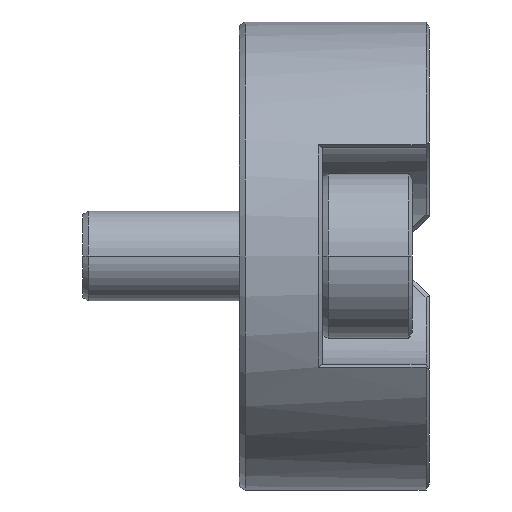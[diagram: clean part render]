
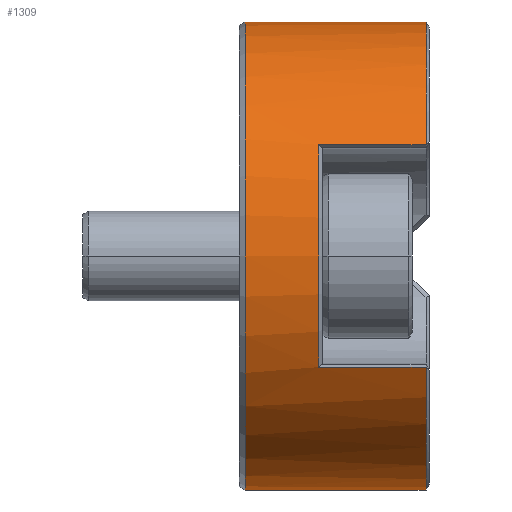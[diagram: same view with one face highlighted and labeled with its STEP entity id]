
A CAD part, left-side view. The second image highlights one B-rep face of the part: STEP entity #1309.
In plain terms, the highlighted cylindrical face has radius 7.811 mm (diameter 15.621 mm), a partial arc.
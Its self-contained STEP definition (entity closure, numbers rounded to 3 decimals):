
#10 = CIRCLE ( 'NONE', #1964, 7.811 ) ;
#35 = LINE ( 'NONE', #1473, #40 ) ;
#40 = VECTOR ( 'NONE', #1476, 1000. ) ;
#176 = CARTESIAN_POINT ( 'NONE',  ( 0., 6.152, 0. ) ) ;
#201 = CARTESIAN_POINT ( 'NONE',  ( 0., 3.695, 0. ) ) ;
#217 = CARTESIAN_POINT ( 'NONE',  ( -6.874, 6.35, -3.708 ) ) ;
#226 = DIRECTION ( 'NONE',  ( 0., -1., 0. ) ) ;
#227 = CARTESIAN_POINT ( 'NONE',  ( -6.874, 6.35, 3.708 ) ) ;
#253 = DIRECTION ( 'NONE',  ( 0., 0., 1. ) ) ;
#264 = DIRECTION ( 'NONE',  ( 0., -1., 0. ) ) ;
#294 = DIRECTION ( 'NONE',  ( 0., 1., 0. ) ) ;
#375 = DIRECTION ( 'NONE',  ( 0., 1., 0. ) ) ;
#400 = DIRECTION ( 'NONE',  ( 0., 0., 1. ) ) ;
#493 = CIRCLE ( 'NONE', #1969, 7.811 ) ;
#666 = VECTOR ( 'NONE', #1226, 1000. ) ;
#669 = LINE ( 'NONE', #1399, #666 ) ;
#718 = CARTESIAN_POINT ( 'NONE',  ( 0., 6.152, 7.811 ) ) ;
#730 = CARTESIAN_POINT ( 'NONE',  ( 0., 6.152, -7.811 ) ) ;
#733 = CARTESIAN_POINT ( 'NONE',  ( 0., 0.115, -7.811 ) ) ;
#734 = CARTESIAN_POINT ( 'NONE',  ( 0., 0.115, 7.811 ) ) ;
#746 = CARTESIAN_POINT ( 'NONE',  ( -6.874, 0.115, 3.708 ) ) ;
#868 = ORIENTED_EDGE ( 'NONE', *, *, #1651, .F. ) ;
#877 = ORIENTED_EDGE ( 'NONE', *, *, #1603, .T. ) ;
#878 = CYLINDRICAL_SURFACE ( 'NONE', #1552, 7.811 ) ;
#880 = ORIENTED_EDGE ( 'NONE', *, *, #1556, .T. ) ;
#890 = ORIENTED_EDGE ( 'NONE', *, *, #1573, .T. ) ;
#894 = ORIENTED_EDGE ( 'NONE', *, *, #1521, .T. ) ;
#896 = FACE_OUTER_BOUND ( 'NONE', #928, .T. ) ;
#897 = ORIENTED_EDGE ( 'NONE', *, *, #1612, .T. ) ;
#900 = ORIENTED_EDGE ( 'NONE', *, *, #1506, .T. ) ;
#902 = ORIENTED_EDGE ( 'NONE', *, *, #1621, .T. ) ;
#928 = EDGE_LOOP ( 'NONE', ( #868, #880, #877, #902, #894, #900, #890, #897 ) ) ;
#1226 = DIRECTION ( 'NONE',  ( 0., -1., 0. ) ) ;
#1233 = CARTESIAN_POINT ( 'NONE',  ( -6.874, 3.695, -3.708 ) ) ;
#1235 = CARTESIAN_POINT ( 'NONE',  ( -6.874, 3.695, 3.708 ) ) ;
#1250 = CARTESIAN_POINT ( 'NONE',  ( -6.874, 0.115, -3.708 ) ) ;
#1272 = DIRECTION ( 'NONE',  ( 0., 0., 1. ) ) ;
#1274 = DIRECTION ( 'NONE',  ( 0., 1., 0. ) ) ;
#1284 = CARTESIAN_POINT ( 'NONE',  ( 0., 0.115, 0. ) ) ;
#1309 = ADVANCED_FACE ( 'NONE', ( #896 ), #878, .T. ) ;
#1399 = CARTESIAN_POINT ( 'NONE',  ( 0., 6.35, 7.811 ) ) ;
#1447 = VECTOR ( 'NONE', #226, 1000. ) ;
#1450 = LINE ( 'NONE', #227, #1447 ) ;
#1473 = CARTESIAN_POINT ( 'NONE',  ( 0., 6.35, -7.811 ) ) ;
#1476 = DIRECTION ( 'NONE',  ( 0., -1., 0. ) ) ;
#1506 = EDGE_CURVE ( 'NONE', #2177, #2178, #1810, .T. ) ;
#1521 = EDGE_CURVE ( 'NONE', #2149, #2177, #1793, .T. ) ;
#1552 = AXIS2_PLACEMENT_3D ( 'NONE', #2204, #2205, #2207 ) ;
#1556 = EDGE_CURVE ( 'NONE', #2414, #2375, #1765, .T. ) ;
#1573 = EDGE_CURVE ( 'NONE', #2178, #2431, #1450, .T. ) ;
#1603 = EDGE_CURVE ( 'NONE', #2375, #2374, #35, .T. ) ;
#1612 = EDGE_CURVE ( 'NONE', #2431, #2396, #10, .T. ) ;
#1621 = EDGE_CURVE ( 'NONE', #2374, #2149, #493, .T. ) ;
#1651 = EDGE_CURVE ( 'NONE', #2414, #2396, #669, .T. ) ;
#1705 = DIRECTION ( 'NONE',  ( 0., 1., 0. ) ) ;
#1715 = DIRECTION ( 'NONE',  ( 0., 0., 1. ) ) ;
#1716 = CARTESIAN_POINT ( 'NONE',  ( 0., 0.115, 0. ) ) ;
#1765 = CIRCLE ( 'NONE', #1871, 7.811 ) ;
#1792 = VECTOR ( 'NONE', #294, 1000. ) ;
#1793 = LINE ( 'NONE', #217, #1792 ) ;
#1810 = CIRCLE ( 'NONE', #1845, 7.811 ) ;
#1845 = AXIS2_PLACEMENT_3D ( 'NONE', #201, #375, #400 ) ;
#1871 = AXIS2_PLACEMENT_3D ( 'NONE', #176, #264, #253 ) ;
#1964 = AXIS2_PLACEMENT_3D ( 'NONE', #1716, #1705, #1715 ) ;
#1969 = AXIS2_PLACEMENT_3D ( 'NONE', #1284, #1274, #1272 ) ;
#2149 = VERTEX_POINT ( 'NONE', #1250 ) ;
#2177 = VERTEX_POINT ( 'NONE', #1233 ) ;
#2178 = VERTEX_POINT ( 'NONE', #1235 ) ;
#2204 = CARTESIAN_POINT ( 'NONE',  ( 0., 6.35, 0. ) ) ;
#2205 = DIRECTION ( 'NONE',  ( 0., -1., 0. ) ) ;
#2207 = DIRECTION ( 'NONE',  ( 0., 0., -1. ) ) ;
#2374 = VERTEX_POINT ( 'NONE', #733 ) ;
#2375 = VERTEX_POINT ( 'NONE', #730 ) ;
#2396 = VERTEX_POINT ( 'NONE', #734 ) ;
#2414 = VERTEX_POINT ( 'NONE', #718 ) ;
#2431 = VERTEX_POINT ( 'NONE', #746 ) ;
